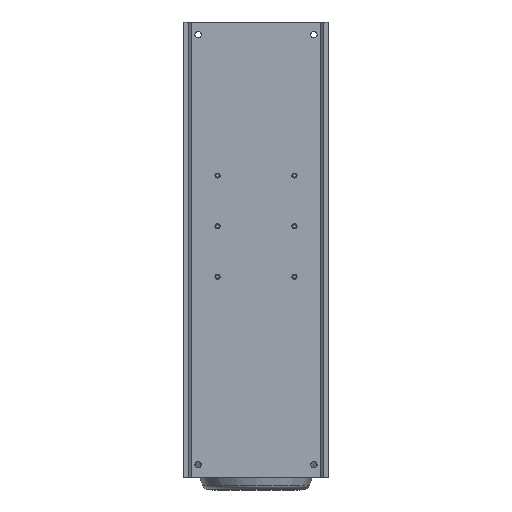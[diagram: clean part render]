
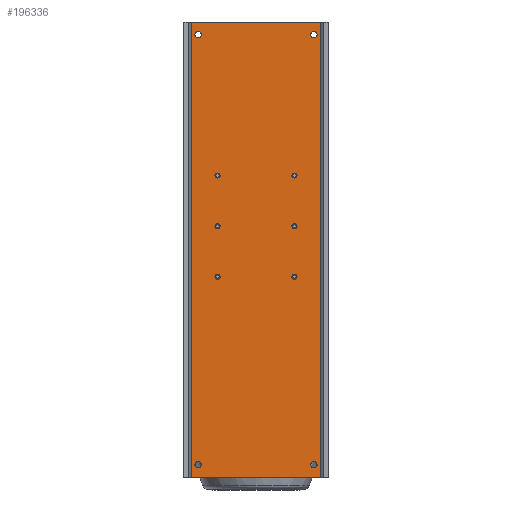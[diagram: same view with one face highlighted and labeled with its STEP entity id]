
A CAD part, front view. The second image highlights one B-rep face of the part: STEP entity #196336.
In plain terms, the highlighted planar face has unit normal (0, -1, 0).
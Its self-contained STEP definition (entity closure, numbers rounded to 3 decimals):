
#196083=CARTESIAN_POINT('',(-178.913,96.,630.0));
#196084=VERTEX_POINT('',#196083);
#196091=CARTESIAN_POINT('',(178.913,96.0,630.0));
#196092=VERTEX_POINT('',#196091);
#196093=CARTESIAN_POINT('',(178.913,96.0,630.0));
#196094=DIRECTION('',(-1.0,0.0,0.0));
#196095=VECTOR('',#196094,357.826);
#196096=LINE('',#196093,#196095);
#196097=EDGE_CURVE('',#196092,#196084,#196096,.T.);
#196186=CARTESIAN_POINT('',(-178.913,96.,-630.0));
#196187=VERTEX_POINT('',#196186);
#196194=CARTESIAN_POINT('',(-178.913,96.,-630.0));
#196195=DIRECTION('',(0.0,0.0,1.0));
#196196=VECTOR('',#196195,1260.0);
#196197=LINE('',#196194,#196196);
#196198=EDGE_CURVE('',#196187,#196084,#196197,.T.);
#196203=CARTESIAN_POINT('',(178.913,96.0,0.0));
#196204=DIRECTION('',(0.0,-1.0,0.0));
#196205=DIRECTION('',(0.0,0.0,-1.0));
#196206=AXIS2_PLACEMENT_3D('',#196203,#196204,#196205);
#196207=PLANE('',#196206);
#196208=ORIENTED_EDGE('',*,*,#196097,.T.);
#196209=ORIENTED_EDGE('',*,*,#196198,.F.);
#196210=CARTESIAN_POINT('',(178.913,96.0,-630.0));
#196211=VERTEX_POINT('',#196210);
#196212=CARTESIAN_POINT('',(-178.913,96.,-630.0));
#196213=DIRECTION('',(1.0,0.0,0.0));
#196214=VECTOR('',#196213,357.826);
#196215=LINE('',#196212,#196214);
#196216=EDGE_CURVE('',#196187,#196211,#196215,.T.);
#196217=ORIENTED_EDGE('',*,*,#196216,.T.);
#196218=CARTESIAN_POINT('',(178.913,96.0,-630.0));
#196219=DIRECTION('',(0.0,0.0,1.0));
#196220=VECTOR('',#196219,1260.0);
#196221=LINE('',#196218,#196220);
#196222=EDGE_CURVE('',#196211,#196092,#196221,.T.);
#196223=ORIENTED_EDGE('',*,*,#196222,.T.);
#196224=EDGE_LOOP('',(#196208,#196209,#196217,#196223));
#196225=FACE_OUTER_BOUND('',#196224,.T.);
#196226=CARTESIAN_POINT('',(-113.5,96.,205.0));
#196227=VERTEX_POINT('',#196226);
#196228=CARTESIAN_POINT('',(-106.5,96.,205.0));
#196229=DIRECTION('',(0.0,1.0,0.0));
#196230=DIRECTION('',(1.0,0.0,0.0));
#196231=AXIS2_PLACEMENT_3D('',#196228,#196229,#196230);
#196232=CIRCLE('',#196231,7.);
#196233=EDGE_CURVE('',#196227,#196227,#196232,.T.);
#196234=ORIENTED_EDGE('',*,*,#196233,.T.);
#196235=EDGE_LOOP('',(#196234));
#196236=FACE_BOUND('',#196235,.T.);
#196237=CARTESIAN_POINT('',(-113.5,96.,65.0));
#196238=VERTEX_POINT('',#196237);
#196239=CARTESIAN_POINT('',(-106.5,96.,65.0));
#196240=DIRECTION('',(0.0,1.0,0.0));
#196241=DIRECTION('',(1.0,0.0,0.0));
#196242=AXIS2_PLACEMENT_3D('',#196239,#196240,#196241);
#196243=CIRCLE('',#196242,7.);
#196244=EDGE_CURVE('',#196238,#196238,#196243,.T.);
#196245=ORIENTED_EDGE('',*,*,#196244,.T.);
#196246=EDGE_LOOP('',(#196245));
#196247=FACE_BOUND('',#196246,.T.);
#196248=CARTESIAN_POINT('',(-113.5,96.,-75.0));
#196249=VERTEX_POINT('',#196248);
#196250=CARTESIAN_POINT('',(-106.5,96.,-75.0));
#196251=DIRECTION('',(0.0,1.0,0.0));
#196252=DIRECTION('',(1.0,0.0,0.0));
#196253=AXIS2_PLACEMENT_3D('',#196250,#196251,#196252);
#196254=CIRCLE('',#196253,7.);
#196255=EDGE_CURVE('',#196249,#196249,#196254,.T.);
#196256=ORIENTED_EDGE('',*,*,#196255,.T.);
#196257=EDGE_LOOP('',(#196256));
#196258=FACE_BOUND('',#196257,.T.);
#196259=CARTESIAN_POINT('',(113.5,96.,205.0));
#196260=VERTEX_POINT('',#196259);
#196261=CARTESIAN_POINT('',(106.5,96.,205.0));
#196262=DIRECTION('',(0.0,1.0,0.0));
#196263=DIRECTION('',(-1.0,0.0,0.0));
#196264=AXIS2_PLACEMENT_3D('',#196261,#196262,#196263);
#196265=CIRCLE('',#196264,7.);
#196266=EDGE_CURVE('',#196260,#196260,#196265,.T.);
#196267=ORIENTED_EDGE('',*,*,#196266,.T.);
#196268=EDGE_LOOP('',(#196267));
#196269=FACE_BOUND('',#196268,.T.);
#196270=CARTESIAN_POINT('',(113.5,96.,65.0));
#196271=VERTEX_POINT('',#196270);
#196272=CARTESIAN_POINT('',(106.5,96.,65.0));
#196273=DIRECTION('',(0.0,1.0,0.0));
#196274=DIRECTION('',(-1.0,0.0,0.0));
#196275=AXIS2_PLACEMENT_3D('',#196272,#196273,#196274);
#196276=CIRCLE('',#196275,7.);
#196277=EDGE_CURVE('',#196271,#196271,#196276,.T.);
#196278=ORIENTED_EDGE('',*,*,#196277,.T.);
#196279=EDGE_LOOP('',(#196278));
#196280=FACE_BOUND('',#196279,.T.);
#196281=CARTESIAN_POINT('',(113.5,96.,-75.0));
#196282=VERTEX_POINT('',#196281);
#196283=CARTESIAN_POINT('',(106.5,96.,-75.0));
#196284=DIRECTION('',(0.0,1.0,0.0));
#196285=DIRECTION('',(-1.0,0.0,0.0));
#196286=AXIS2_PLACEMENT_3D('',#196283,#196284,#196285);
#196287=CIRCLE('',#196286,7.);
#196288=EDGE_CURVE('',#196282,#196282,#196287,.T.);
#196289=ORIENTED_EDGE('',*,*,#196288,.T.);
#196290=EDGE_LOOP('',(#196289));
#196291=FACE_BOUND('',#196290,.T.);
#196292=CARTESIAN_POINT('',(151.0,96.,-595.0));
#196293=VERTEX_POINT('',#196292);
#196294=CARTESIAN_POINT('',(160.0,96.0,-595.0));
#196295=DIRECTION('',(0.0,1.0,0.0));
#196296=DIRECTION('',(1.0,0.0,0.0));
#196297=AXIS2_PLACEMENT_3D('',#196294,#196295,#196296);
#196298=CIRCLE('',#196297,9.0);
#196299=EDGE_CURVE('',#196293,#196293,#196298,.T.);
#196300=ORIENTED_EDGE('',*,*,#196299,.T.);
#196301=EDGE_LOOP('',(#196300));
#196302=FACE_BOUND('',#196301,.T.);
#196303=CARTESIAN_POINT('',(151.0,96.,595.0));
#196304=VERTEX_POINT('',#196303);
#196305=CARTESIAN_POINT('',(160.0,96.0,595.0));
#196306=DIRECTION('',(0.0,1.0,0.0));
#196307=DIRECTION('',(1.0,0.0,0.0));
#196308=AXIS2_PLACEMENT_3D('',#196305,#196306,#196307);
#196309=CIRCLE('',#196308,9.0);
#196310=EDGE_CURVE('',#196304,#196304,#196309,.T.);
#196311=ORIENTED_EDGE('',*,*,#196310,.T.);
#196312=EDGE_LOOP('',(#196311));
#196313=FACE_BOUND('',#196312,.T.);
#196314=CARTESIAN_POINT('',(-151.0,96.,-595.0));
#196315=VERTEX_POINT('',#196314);
#196316=CARTESIAN_POINT('',(-160.0,96.,-595.0));
#196317=DIRECTION('',(0.0,1.0,0.0));
#196318=DIRECTION('',(-1.0,0.0,0.0));
#196319=AXIS2_PLACEMENT_3D('',#196316,#196317,#196318);
#196320=CIRCLE('',#196319,9.0);
#196321=EDGE_CURVE('',#196315,#196315,#196320,.T.);
#196322=ORIENTED_EDGE('',*,*,#196321,.T.);
#196323=EDGE_LOOP('',(#196322));
#196324=FACE_BOUND('',#196323,.T.);
#196325=CARTESIAN_POINT('',(-151.0,96.,595.0));
#196326=VERTEX_POINT('',#196325);
#196327=CARTESIAN_POINT('',(-160.0,96.,595.0));
#196328=DIRECTION('',(0.0,1.0,0.0));
#196329=DIRECTION('',(-1.0,0.0,0.0));
#196330=AXIS2_PLACEMENT_3D('',#196327,#196328,#196329);
#196331=CIRCLE('',#196330,9.0);
#196332=EDGE_CURVE('',#196326,#196326,#196331,.T.);
#196333=ORIENTED_EDGE('',*,*,#196332,.T.);
#196334=EDGE_LOOP('',(#196333));
#196335=FACE_BOUND('',#196334,.T.);
#196336=ADVANCED_FACE('',(#196225,#196236,#196247,#196258,#196269,#196280,#196291,#196302,#196313,#196324,#196335),#196207,.T.);
